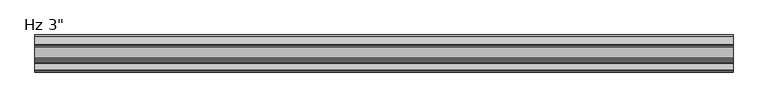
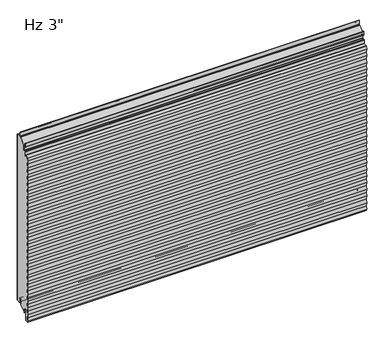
"""IFC4 building model written with IfcOpenShell, lengths in millimetres: plate geometry."""

from ifc_helpers import new_model, si_unit, point, frame, frame_2d, origin, place, context, project, spatial, polyline, circle_curve, ellipse_curve, trimmed, segment, composite_curve, outline, extrude, source, transform, mapped, element, save
from ifc_brep_helpers import plane_surface, cylinder_surface, revolved_surface, extruded_surface, advanced_brep


def plate_72ebc10c(model_context):
    return source(origin(), model_context, "Body", "SolidModel", [
        extrude(outline(composite_curve([segment(trimmed(circle_curve(frame_2d((-21.43125, 19.05)), 4.96875), [point((-16.4625, 19.05))], [point((-26.4, 19.05))], True, "CARTESIAN"), True, "CONTINUOUS"), segment(polyline([(-26.4, 19.05), (-26.4, -3.1323422), (-49.2157227, -23.01875), (-50.8, -23.01875), (-50.8, -13.5080174), (-51.59375, -13.5080174), (-51.3875, -11.9205174)]), True, "CONTINUOUS"), segment(trimmed(circle_curve(frame_2d((-56.35625, -11.9205174)), 4.96875), [point((-51.3875, -11.9205174))], [point((-61.325, -11.9205174))], True, "CARTESIAN"), True, "CONTINUOUS"), segment(polyline([(-61.325, -11.9205174), (-61.325, -50.1038221)]), True, "CONTINUOUS"), segment(trimmed(circle_curve(frame_2d((-62.70625, -50.1038221)), 1.38125), [point((-61.325, -50.1038221))], [point((-62.633961, -51.4831791))], False, "CARTESIAN"), True, "CONTINUOUS"), segment(polyline([(-62.633961, -51.4831791), (-75.8062471, -52.1735094), (-76.3378194, -48.8511825), (-73.8994194, -33.6111825), (-76.3378194, -18.3711825), (-73.8994194, -3.1311825), (-76.3378194, 12.1088175), (-73.8994194, 27.3488175), (-76.3378194, 42.5888175), (-73.8994194, 57.8288175), (-76.3378194, 73.0688175), (-73.8994194, 88.3088175), (-76.3378194, 103.5488175), (-73.8994194, 118.7888175), (-76.3378194, 134.0288175), (-73.8994194, 149.2688175), (-76.3378194, 164.5088175), (-73.8994194, 179.7488175), (-76.3378194, 194.9888175), (-73.8994194, 210.2288175), (-76.3378194, 225.4688175), (-73.8994194, 240.7088175), (-76.3378194, 255.9488175), (-73.8994194, 271.1888175), (-76.3378194, 286.4288175), (-73.8994194, 301.6688175), (-76.3378194, 316.9088175), (-73.8994194, 332.1488175), (-76.3378194, 347.3888175), (-73.8994194, 362.6288175), (-76.3378194, 377.8688175), (-73.8994194, 393.1088175), (-76.3378194, 408.3488175), (-73.8994194, 423.5888175), (-76.3378194, 438.8288175), (-73.8994194, 454.0688175), (-76.3378194, 469.3088175), (-73.8994194, 484.5488175), (-76.3378194, 499.7888175), (-73.8994194, 515.0288175), (-76.3378194, 530.2688175), (-73.8994194, 545.5088175), (-76.3378194, 560.7488175), (-73.8994194, 575.9888175), (-76.3378194, 591.2288175), (-73.8994194, 606.4688175), (-76.3378194, 621.7088175), (-73.8994194, 636.9488175), (-76.3378194, 652.1888175), (-73.8994194, 667.4288175), (-76.3378194, 682.6688175), (-74.3326745, 695.2009726), (-60.1895807, 695.9421807)]), True, "CONTINUOUS"), segment(trimmed(circle_curve(frame_2d((-60.325, 698.5261347)), 2.5875), [point((-60.1895807, 695.9421807))], [point((-57.7375, 698.5261347))], True, "CARTESIAN"), True, "CONTINUOUS"), segment(polyline([(-57.7375, 698.5261347), (-57.7375, 712.6824411)]), True, "CONTINUOUS"), segment(trimmed(circle_curve(frame_2d((-56.35625, 712.6824411)), 1.38125), [point((-57.7375, 712.6824411))], [point((-56.428539, 714.0617981))], False, "CARTESIAN"), True, "CONTINUOUS"), segment(polyline([(-56.428539, 714.0617981), (-50.6645807, 714.3638744)]), True, "CONTINUOUS"), segment(trimmed(circle_curve(frame_2d((-50.8, 716.9478283)), 2.5875), [point((-50.6645807, 714.3638744))], [point((-48.2125, 716.9478283))], True, "CARTESIAN"), True, "CONTINUOUS"), segment(polyline([(-48.2125, 716.9478283), (-48.2125, 739.3892934), (-24.9057308, 760.20625), (-2.38125, 760.20625)]), True, "CONTINUOUS"), segment(trimmed(circle_curve(frame_2d((-2.38125, 758.825)), 1.38125), [point((-2.38125, 760.20625))], [point((-1.0, 758.825))], False, "CARTESIAN"), True, "CONTINUOUS"), segment(polyline([(-1.0, 758.825), (-1.0, 3.175)]), True, "CONTINUOUS"), segment(trimmed(circle_curve(frame_2d((-2.38125, 3.175)), 1.38125), [point((-1.0, 3.175))], [point((-2.38125, 1.79375))], False, "CARTESIAN"), True, "CONTINUOUS"), segment(polyline([(-2.38125, 1.79375), (-15.08125, 1.79375)]), True, "CONTINUOUS"), segment(trimmed(circle_curve(frame_2d((-15.08125, 3.175)), 1.38125), [point((-15.08125, 1.79375))], [point((-16.4625, 3.175))], False, "CARTESIAN"), True, "CONTINUOUS"), segment(polyline([(-16.4625, 3.175), (-16.4625, 19.05)]), True, "CONTINUOUS")], self_intersect=False)), frame((-730.0, 0.0, 0.0), z_axis=(1.0, 0.0, 0.0), x_axis=(0.0, 1.0, 0.0)), (0.0, 0.0, 1.0), 1460.0),
        extrude(outline(composite_curve([segment(polyline([(-25.4, 0.79375), (-26.4, 0.79375), (-26.4, 19.05)]), True, "CONTINUOUS"), segment(trimmed(circle_curve(frame_2d((-21.43125, 19.05)), 4.96875), [point((-26.4, 19.05))], [point((-16.4625, 19.05))], False, "CARTESIAN"), True, "CONTINUOUS"), segment(polyline([(-16.4625, 19.05), (-16.4625, 3.175)]), True, "CONTINUOUS"), segment(trimmed(circle_curve(frame_2d((-15.08125, 3.175)), 1.38125), [point((-16.4625, 3.175))], [point((-15.08125, 1.79375))], True, "CARTESIAN"), True, "CONTINUOUS"), segment(polyline([(-15.08125, 1.79375), (-2.38125, 1.79375)]), True, "CONTINUOUS"), segment(trimmed(circle_curve(frame_2d((-2.38125, 3.175)), 1.38125), [point((-2.38125, 1.79375))], [point((-1.0, 3.175))], True, "CARTESIAN"), True, "CONTINUOUS"), segment(polyline([(-1.0, 3.175), (-1.0, 758.825)]), True, "CONTINUOUS"), segment(trimmed(circle_curve(frame_2d((-2.38125, 758.825)), 1.38125), [point((-1.0, 758.825))], [point((-2.38125, 760.20625))], True, "CARTESIAN"), True, "CONTINUOUS"), segment(polyline([(-2.38125, 760.20625), (-19.446875, 760.20625)]), True, "CONTINUOUS"), segment(trimmed(circle_curve(frame_2d((-19.446875, 762.79375)), 2.5875), [point((-19.446875, 760.20625))], [point((-22.034375, 762.79375))], False, "CARTESIAN"), True, "CONTINUOUS"), segment(polyline([(-22.034375, 762.79375), (-22.034375, 780.25625), (-21.034375, 780.25625), (-21.034375, 762.79375)]), True, "CONTINUOUS"), segment(trimmed(circle_curve(frame_2d((-19.446875, 762.79375)), 1.5875), [point((-21.034375, 762.79375))], [point((-19.446875, 761.20625))], True, "CARTESIAN"), True, "CONTINUOUS"), segment(polyline([(-19.446875, 761.20625), (-2.38125, 761.20625)]), True, "CONTINUOUS"), segment(trimmed(circle_curve(frame_2d((-2.38125, 758.825)), 2.38125), [point((-2.38125, 761.20625))], [point((0.0, 758.825))], False, "CARTESIAN"), True, "CONTINUOUS"), segment(polyline([(0.0, 758.825), (0.0, 3.175)]), True, "CONTINUOUS"), segment(trimmed(circle_curve(frame_2d((-2.38125, 3.175)), 2.38125), [point((0.0, 3.175))], [point((-2.38125, 0.79375))], False, "CARTESIAN"), True, "CONTINUOUS"), segment(polyline([(-2.38125, 0.79375), (-15.08125, 0.79375)]), True, "CONTINUOUS"), segment(trimmed(circle_curve(frame_2d((-15.08125, 3.175)), 2.38125), [point((-15.08125, 0.79375))], [point((-17.4625, 3.175))], False, "CARTESIAN"), True, "CONTINUOUS"), segment(polyline([(-17.4625, 3.175), (-17.4625, 19.05)]), True, "CONTINUOUS"), segment(trimmed(circle_curve(frame_2d((-21.43125, 19.05)), 3.96875), [point((-17.4625, 19.05))], [point((-25.4, 19.05))], True, "CARTESIAN"), True, "CONTINUOUS"), segment(polyline([(-25.4, 19.05), (-25.4, 0.79375)]), True, "CONTINUOUS")], self_intersect=False)), frame((-730.0, 0.0, 0.0), z_axis=(1.0, 0.0, 0.0), x_axis=(0.0, 1.0, 0.0)), (0.0, 0.0, 1.0), 1460.0),
        advanced_brep(
        [(-730.0, -50.8, -23.2314549), (-730.0, -52.3875, -23.2314549), (-730.0, -52.3875, -11.9205174), (-730.0, -60.325, -11.9205174), (-730.0, -60.325, -50.1038221), (-730.0, -62.581625, -52.4818086), (-730.0, -76.7543553, -53.22457), (-730.0, -77.4509395, -48.8709186), (-730.0, -75.0125395, -33.6309186), (-730.0, -77.4509395, -18.3909186), (-730.0, -75.0125395, -3.1509186), (-730.0, -77.4509395, 12.0890814), (-730.0, -75.0125395, 27.3290814), (-730.0, -77.4509395, 42.5690814), (-730.0, -75.0125395, 57.8090814), (-730.0, -77.4509395, 73.0490814), (-730.0, -75.0125395, 88.2890814), (-730.0, -77.4509395, 103.5290814), (-730.0, -75.0125395, 118.7690814), (-730.0, -77.4509395, 134.0090814), (-730.0, -75.0125395, 149.2490814), (-730.0, -77.4509395, 164.4890814), (-730.0, -75.0125395, 179.7290814), (-730.0, -77.4509395, 194.9690814), (-730.0, -75.0125395, 210.2090814), (-730.0, -77.4509395, 225.4490814), (-730.0, -75.0125395, 240.6890814), (-730.0, -77.4509395, 255.9290814), (-730.0, -75.0125395, 271.1690814), (-730.0, -77.4509395, 286.4090814), (-730.0, -75.0125395, 301.6490814), (-730.0, -77.4509395, 316.8890814), (-730.0, -75.0125395, 332.1290814), (-730.0, -77.4509395, 347.3690814), (-730.0, -75.0125395, 362.6090814), (-730.0, -77.4509395, 377.8490814), (-730.0, -75.0125395, 393.0890814), (-730.0, -77.4509395, 408.3290814), (-730.0, -75.0125395, 423.5690814), (-730.0, -77.4509395, 438.8090814), (-730.0, -75.0125395, 454.0490814), (-730.0, -77.4509395, 469.2890814), (-730.0, -75.0125395, 484.5290814), (-730.0, -77.4509395, 499.7690814), (-730.0, -75.0125395, 515.0090814), (-730.0, -77.4509395, 530.2490814), (-730.0, -75.0125395, 545.4890814), (-730.0, -77.4509395, 560.7290814), (-730.0, -75.0125395, 575.9690814), (-730.0, -77.4509395, 591.2090814), (-730.0, -75.0125395, 606.4490814), (-730.0, -77.4509395, 621.6890814), (-730.0, -75.0125395, 636.9290814), (-730.0, -77.4509395, 652.1690814), (-730.0, -75.0125395, 667.4090814), (-730.0, -77.4428368, 682.5984395), (-730.0, -75.274106, 696.1530066), (-730.0, -60.2419167, 696.9408103), (-730.0, -58.7375, 698.5261347), (-730.0, -58.7375, 712.6824411), (-730.0, -56.480875, 715.0604276), (-730.0, -50.7169167, 715.3625039), (-730.0, -49.2125, 716.9478283), (-730.0, -49.2125, 731.8232326), (-730.0, -50.8, 733.4107326), (-730.0, -54.9671875, 733.4107326), (-730.0, -57.3484375, 735.7919826), (-730.0, -57.3484375, 750.2836032), (-730.0, -55.5546875, 750.2836032), (-730.0, -55.5546875, 740.5544826), (-730.0, -56.3484375, 740.5544826), (-730.0, -56.3484375, 735.7919826), (-730.0, -54.9671875, 734.4107326), (-730.0, -50.8, 734.4107326), (-730.0, -48.2125, 731.8232326), (-730.0, -48.2125, 716.9478283), (-730.0, -50.6645807, 714.3638744), (-730.0, -56.428539, 714.0617981), (-730.0, -57.7375, 712.6824411), (-730.0, -57.7375, 698.5261347), (-730.0, -60.1895807, 695.9421807), (-730.0, -74.4143976, 695.1966897), (-730.0, -76.4301177, 682.5984395), (-730.0, -73.9998204, 667.4090814), (-730.0, -76.4382204, 652.1690814), (-730.0, -73.9998204, 636.9290814), (-730.0, -76.4382204, 621.6890814), (-730.0, -73.9998204, 606.4490814), (-730.0, -76.4382204, 591.2090814), (-730.0, -73.9998204, 575.9690814), (-730.0, -76.4382204, 560.7290814), (-730.0, -73.9998204, 545.4890814), (-730.0, -76.4382204, 530.2490814), (-730.0, -73.9998204, 515.0090814), (-730.0, -76.4382204, 499.7690814), (-730.0, -73.9998204, 484.5290814), (-730.0, -76.4382204, 469.2890814), (-730.0, -73.9998204, 454.0490814), (-730.0, -76.4382204, 438.8090814), (-730.0, -73.9998204, 423.5690814), (-730.0, -76.4382204, 408.3290814), (-730.0, -73.9998204, 393.0890814), (-730.0, -76.4382204, 377.8490814), (-730.0, -73.9998204, 362.6090814), (-730.0, -76.4382204, 347.3690814), (-730.0, -73.9998204, 332.1290814), (-730.0, -76.4382204, 316.8890814), (-730.0, -73.9998204, 301.6490814), (-730.0, -76.4382204, 286.4090814), (-730.0, -73.9998204, 271.1690814), (-730.0, -76.4382204, 255.9290814), (-730.0, -73.9998204, 240.6890814), (-730.0, -76.4382204, 225.4490814), (-730.0, -73.9998204, 210.2090814), (-730.0, -76.4382204, 194.9690814), (-730.0, -73.9998204, 179.7290814), (-730.0, -76.4382204, 164.4890814), (-730.0, -73.9998204, 149.2490814), (-730.0, -76.4382204, 134.0090814), (-730.0, -73.9998204, 118.7690814), (-730.0, -76.4382204, 103.5290814), (-730.0, -73.9998204, 88.2890814), (-730.0, -76.4382204, 73.0490814), (-730.0, -73.9998204, 57.8090814), (-730.0, -76.4382204, 42.5690814), (-730.0, -73.9998204, 27.3290814), (-730.0, -76.4382204, 12.0890814), (-730.0, -73.9998204, -3.1509186), (-730.0, -76.4382204, -18.3909186), (-730.0, -73.9998204, -33.6309186), (-730.0, -76.4382204, -48.8709186), (-730.0, -75.9089447, -52.1788915), (-730.0, -62.633961, -51.4831791), (-730.0, -61.325, -50.1038221), (-730.0, -61.325, -11.9205174), (-730.0, -51.3875, -11.9205174), (-730.0, -51.59375, -13.5080174), (-730.0, -50.8, -13.5080174), (730.0, -50.8, -23.2314549), (730.0, -50.8, -13.5080174), (730.0, -51.59375, -13.5080174), (730.0, -51.3875, -11.9205174), (730.0, -61.325, -11.9205174), (730.0, -61.325, -50.1038221), (730.0, -62.633961, -51.4831791), (730.0, -75.9089447, -52.1788915), (730.0, -76.4382204, -48.8709186), (730.0, -73.9998204, -33.6309186), (730.0, -76.4382204, -18.3909186), (730.0, -73.9998204, -3.1509186), (730.0, -76.4382204, 12.0890814), (730.0, -73.9998204, 27.3290814), (730.0, -76.4382204, 42.5690814), (730.0, -73.9998204, 57.8090814), (730.0, -76.4382204, 73.0490814), (730.0, -73.9998204, 88.2890814), (730.0, -76.4382204, 103.5290814), (730.0, -73.9998204, 118.7690814), (730.0, -76.4382204, 134.0090814), (730.0, -73.9998204, 149.2490814), (730.0, -76.4382204, 164.4890814), (730.0, -73.9998204, 179.7290814), (730.0, -76.4382204, 194.9690814), (730.0, -73.9998204, 210.2090814), (730.0, -76.4382204, 225.4490814), (730.0, -73.9998204, 240.6890814), (730.0, -76.4382204, 255.9290814), (730.0, -73.9998204, 271.1690814), (730.0, -76.4382204, 286.4090814), (730.0, -73.9998204, 301.6490814), (730.0, -76.4382204, 316.8890814), (730.0, -73.9998204, 332.1290814), (730.0, -76.4382204, 347.3690814), (730.0, -73.9998204, 362.6090814), (730.0, -76.4382204, 377.8490814), (730.0, -73.9998204, 393.0890814), (730.0, -76.4382204, 408.3290814), (730.0, -73.9998204, 423.5690814), (730.0, -76.4382204, 438.8090814), (730.0, -73.9998204, 454.0490814), (730.0, -76.4382204, 469.2890814), (730.0, -73.9998204, 484.5290814), (730.0, -76.4382204, 499.7690814), (730.0, -73.9998204, 515.0090814), (730.0, -76.4382204, 530.2490814), (730.0, -73.9998204, 545.4890814), (730.0, -76.4382204, 560.7290814), (730.0, -73.9998204, 575.9690814), (730.0, -76.4382204, 591.2090814), (730.0, -73.9998204, 606.4490814), (730.0, -76.4382204, 621.6890814), (730.0, -73.9998204, 636.9290814), (730.0, -76.4382204, 652.1690814), (730.0, -73.9998204, 667.4090814), (730.0, -76.4301177, 682.5984395), (730.0, -74.4143976, 695.1966897), (730.0, -60.1895807, 695.9421807), (730.0, -57.7375, 698.5261347), (730.0, -57.7375, 712.6824411), (730.0, -56.428539, 714.0617981), (730.0, -50.6645807, 714.3638744), (730.0, -48.2125, 716.9478283), (730.0, -48.2125, 731.8232326), (730.0, -50.8, 734.4107326), (730.0, -54.9671875, 734.4107326), (730.0, -56.3484375, 735.7919826), (730.0, -56.3484375, 740.5544826), (730.0, -55.5546875, 740.5544826), (730.0, -55.5546875, 750.2836032), (730.0, -57.3484375, 750.2836032), (730.0, -57.3484375, 735.7919826), (730.0, -54.9671875, 733.4107326), (730.0, -50.8, 733.4107326), (730.0, -49.2125, 731.8232326), (730.0, -49.2125, 716.9478283), (730.0, -50.7169167, 715.3625039), (730.0, -56.480875, 715.0604276), (730.0, -58.7375, 712.6824411), (730.0, -58.7375, 698.5261347), (730.0, -60.2419167, 696.9408103), (730.0, -75.274106, 696.1530066), (730.0, -77.4428368, 682.5984395), (730.0, -75.0125395, 667.4090814), (730.0, -77.4509395, 652.1690814), (730.0, -75.0125395, 636.9290814), (730.0, -77.4509395, 621.6890814), (730.0, -75.0125395, 606.4490814), (730.0, -77.4509395, 591.2090814), (730.0, -75.0125395, 575.9690814), (730.0, -77.4509395, 560.7290814), (730.0, -75.0125395, 545.4890814), (730.0, -77.4509395, 530.2490814), (730.0, -75.0125395, 515.0090814), (730.0, -77.4509395, 499.7690814), (730.0, -75.0125395, 484.5290814), (730.0, -77.4509395, 469.2890814), (730.0, -75.0125395, 454.0490814), (730.0, -77.4509395, 438.8090814), (730.0, -75.0125395, 423.5690814), (730.0, -77.4509395, 408.3290814), (730.0, -75.0125395, 393.0890814), (730.0, -77.4509395, 377.8490814), (730.0, -75.0125395, 362.6090814), (730.0, -77.4509395, 347.3690814), (730.0, -75.0125395, 332.1290814), (730.0, -77.4509395, 316.8890814), (730.0, -75.0125395, 301.6490814), (730.0, -77.4509395, 286.4090814), (730.0, -75.0125395, 271.1690814), (730.0, -77.4509395, 255.9290814), (730.0, -75.0125395, 240.6890814), (730.0, -77.4509395, 225.4490814), (730.0, -75.0125395, 210.2090814), (730.0, -77.4509395, 194.9690814), (730.0, -75.0125395, 179.7290814), (730.0, -77.4509395, 164.4890814), (730.0, -75.0125395, 149.2490814), (730.0, -77.4509395, 134.0090814), (730.0, -75.0125395, 118.7690814), (730.0, -77.4509395, 103.5290814), (730.0, -75.0125395, 88.2890814), (730.0, -77.4509395, 73.0490814), (730.0, -75.0125395, 57.8090814), (730.0, -77.4509395, 42.5690814), (730.0, -75.0125395, 27.3290814), (730.0, -77.4509395, 12.0890814), (730.0, -75.0125395, -3.1509186), (730.0, -77.4509395, -18.3909186), (730.0, -75.0125395, -33.6309186), (730.0, -77.4509395, -48.8709186), (730.0, -76.7543553, -53.22457), (730.0, -62.581625, -52.4818086), (730.0, -60.325, -50.1038221), (730.0, -60.325, -11.9205174), (730.0, -52.3875, -11.9205174), (730.0, -52.3875, -23.2314549)],
        [
            (0, 1, circle_curve(frame((-730.0, -51.59375, -23.2314549), z_axis=(-1.0, 0.0, 0.0), x_axis=(0.0, 0.0, -1.0)), 0.79375)),
            (1, 2),
            (2, 3, circle_curve(frame((-730.0, -56.35625, -11.9205174), z_axis=(1.0, 0.0, 0.0), x_axis=(0.0, 0.0, -1.0)), 3.96875)),
            (3, 4),
            (4, 5, circle_curve(frame((-730.0, -62.70625, -50.1038221), z_axis=(-1.0, 0.0, 0.0), x_axis=(0.0, 0.0, -1.0)), 2.38125)),
            (5, 6),
            (6, 7),
            (7, 8),
            (8, 9),
            (9, 10),
            (10, 11),
            (11, 12),
            (12, 13),
            (13, 14),
            (14, 15),
            (15, 16),
            (16, 17),
            (17, 18),
            (18, 19),
            (19, 20),
            (20, 21),
            (21, 22),
            (22, 23),
            (23, 24),
            (24, 25),
            (25, 26),
            (26, 27),
            (27, 28),
            (28, 29),
            (29, 30),
            (30, 31),
            (31, 32),
            (32, 33),
            (33, 34),
            (34, 35),
            (35, 36),
            (36, 37),
            (37, 38),
            (38, 39),
            (39, 40),
            (40, 41),
            (41, 42),
            (42, 43),
            (43, 44),
            (44, 45),
            (45, 46),
            (46, 47),
            (47, 48),
            (48, 49),
            (49, 50),
            (50, 51),
            (51, 52),
            (52, 53),
            (53, 54),
            (54, 55),
            (55, 56),
            (56, 57),
            (57, 58, circle_curve(frame((-730.0, -60.325, 698.5261347), z_axis=(1.0, 0.0, 0.0), x_axis=(0.0, 0.0, -1.0)), 1.5875)),
            (58, 59),
            (59, 60, circle_curve(frame((-730.0, -56.35625, 712.6824411), z_axis=(-1.0, 0.0, 0.0), x_axis=(0.0, 0.0, -1.0)), 2.38125)),
            (60, 61),
            (61, 62, circle_curve(frame((-730.0, -50.8, 716.9478283), z_axis=(1.0, 0.0, 0.0), x_axis=(0.0, 0.0, -1.0)), 1.5875)),
            (62, 63),
            (63, 64, circle_curve(frame((-730.0, -50.8, 731.8232326), z_axis=(1.0, 0.0, 0.0), x_axis=(0.0, 0.0, -1.0)), 1.5875)),
            (64, 65),
            (65, 66, circle_curve(frame((-730.0, -54.9671875, 735.7919826), z_axis=(-1.0, 0.0, 0.0), x_axis=(0.0, 0.0, -1.0)), 2.38125)),
            (66, 67),
            (67, 68, ellipse_curve(frame((-730.0, -56.4515625, 750.2836032), z_axis=(-1.0, 0.0, 0.0), x_axis=(0.0, 1.0, 0.0)), 0.896875, 0.7852275)),
            (68, 69),
            (69, 70),
            (70, 71),
            (71, 72, circle_curve(frame((-730.0, -54.9671875, 735.7919826), z_axis=(1.0, 0.0, 0.0), x_axis=(0.0, 0.0, -1.0)), 1.38125)),
            (72, 73),
            (73, 74, circle_curve(frame((-730.0, -50.8, 731.8232326), z_axis=(-1.0, 0.0, 0.0), x_axis=(0.0, 0.0, -1.0)), 2.5875)),
            (74, 75),
            (75, 76, circle_curve(frame((-730.0, -50.8, 716.9478283), z_axis=(-1.0, 0.0, 0.0), x_axis=(0.0, 0.0, -1.0)), 2.5875)),
            (76, 77),
            (77, 78, circle_curve(frame((-730.0, -56.35625, 712.6824411), z_axis=(1.0, 0.0, 0.0), x_axis=(0.0, 0.0, -1.0)), 1.38125)),
            (78, 79),
            (79, 80, circle_curve(frame((-730.0, -60.325, 698.5261347), z_axis=(-1.0, 0.0, 0.0), x_axis=(0.0, 0.0, -1.0)), 2.5875)),
            (80, 81),
            (81, 82),
            (82, 83),
            (83, 84),
            (84, 85),
            (85, 86),
            (86, 87),
            (87, 88),
            (88, 89),
            (89, 90),
            (90, 91),
            (91, 92),
            (92, 93),
            (93, 94),
            (94, 95),
            (95, 96),
            (96, 97),
            (97, 98),
            (98, 99),
            (99, 100),
            (100, 101),
            (101, 102),
            (102, 103),
            (103, 104),
            (104, 105),
            (105, 106),
            (106, 107),
            (107, 108),
            (108, 109),
            (109, 110),
            (110, 111),
            (111, 112),
            (112, 113),
            (113, 114),
            (114, 115),
            (115, 116),
            (116, 117),
            (117, 118),
            (118, 119),
            (119, 120),
            (120, 121),
            (121, 122),
            (122, 123),
            (123, 124),
            (124, 125),
            (125, 126),
            (126, 127),
            (127, 128),
            (128, 129),
            (129, 130),
            (130, 131),
            (131, 132),
            (132, 133, circle_curve(frame((-730.0, -62.70625, -50.1038221), z_axis=(1.0, 0.0, 0.0), x_axis=(0.0, 0.0, -1.0)), 1.38125)),
            (133, 134),
            (134, 135, circle_curve(frame((-730.0, -56.35625, -11.9205174), z_axis=(-1.0, 0.0, 0.0), x_axis=(0.0, 0.0, -1.0)), 4.96875)),
            (135, 136),
            (136, 137),
            (137, 0),
            (138, 139),
            (139, 140),
            (140, 141),
            (141, 142, circle_curve(frame((730.0, -56.35625, -11.9205174), z_axis=(1.0, 0.0, 0.0), x_axis=(0.0, 0.0, -1.0)), 4.96875)),
            (142, 143),
            (143, 144, circle_curve(frame((730.0, -62.70625, -50.1038221), z_axis=(-1.0, 0.0, 0.0), x_axis=(0.0, 0.0, -1.0)), 1.38125)),
            (144, 145),
            (145, 146),
            (146, 147),
            (147, 148),
            (148, 149),
            (149, 150),
            (150, 151),
            (151, 152),
            (152, 153),
            (153, 154),
            (154, 155),
            (155, 156),
            (156, 157),
            (157, 158),
            (158, 159),
            (159, 160),
            (160, 161),
            (161, 162),
            (162, 163),
            (163, 164),
            (164, 165),
            (165, 166),
            (166, 167),
            (167, 168),
            (168, 169),
            (169, 170),
            (170, 171),
            (171, 172),
            (172, 173),
            (173, 174),
            (174, 175),
            (175, 176),
            (176, 177),
            (177, 178),
            (178, 179),
            (179, 180),
            (180, 181),
            (181, 182),
            (182, 183),
            (183, 184),
            (184, 185),
            (185, 186),
            (186, 187),
            (187, 188),
            (188, 189),
            (189, 190),
            (190, 191),
            (191, 192),
            (192, 193),
            (193, 194),
            (194, 195),
            (195, 196),
            (196, 197, circle_curve(frame((730.0, -60.325, 698.5261347), z_axis=(1.0, 0.0, 0.0), x_axis=(0.0, 0.0, -1.0)), 2.5875)),
            (197, 198),
            (198, 199, circle_curve(frame((730.0, -56.35625, 712.6824411), z_axis=(-1.0, 0.0, 0.0), x_axis=(0.0, 0.0, -1.0)), 1.38125)),
            (199, 200),
            (200, 201, circle_curve(frame((730.0, -50.8, 716.9478283), z_axis=(1.0, 0.0, 0.0), x_axis=(0.0, 0.0, -1.0)), 2.5875)),
            (201, 202),
            (202, 203, circle_curve(frame((730.0, -50.8, 731.8232326), z_axis=(1.0, 0.0, 0.0), x_axis=(0.0, 0.0, -1.0)), 2.5875)),
            (203, 204),
            (204, 205, circle_curve(frame((730.0, -54.9671875, 735.7919826), z_axis=(-1.0, 0.0, 0.0), x_axis=(0.0, 0.0, -1.0)), 1.38125)),
            (205, 206),
            (206, 207),
            (207, 208),
            (208, 209, ellipse_curve(frame((730.0, -56.4515625, 750.2836032), z_axis=(1.0, 0.0, 0.0), x_axis=(0.0, 1.0, 0.0)), 0.896875, 0.7852275)),
            (209, 210),
            (210, 211, circle_curve(frame((730.0, -54.9671875, 735.7919826), z_axis=(1.0, 0.0, 0.0), x_axis=(0.0, 0.0, -1.0)), 2.38125)),
            (211, 212),
            (212, 213, circle_curve(frame((730.0, -50.8, 731.8232326), z_axis=(-1.0, 0.0, 0.0), x_axis=(0.0, 0.0, -1.0)), 1.5875)),
            (213, 214),
            (214, 215, circle_curve(frame((730.0, -50.8, 716.9478283), z_axis=(-1.0, 0.0, 0.0), x_axis=(0.0, 0.0, -1.0)), 1.5875)),
            (215, 216),
            (216, 217, circle_curve(frame((730.0, -56.35625, 712.6824411), z_axis=(1.0, 0.0, 0.0), x_axis=(0.0, 0.0, -1.0)), 2.38125)),
            (217, 218),
            (218, 219, circle_curve(frame((730.0, -60.325, 698.5261347), z_axis=(-1.0, 0.0, 0.0), x_axis=(0.0, 0.0, -1.0)), 1.5875)),
            (219, 220),
            (220, 221),
            (221, 222),
            (222, 223),
            (223, 224),
            (224, 225),
            (225, 226),
            (226, 227),
            (227, 228),
            (228, 229),
            (229, 230),
            (230, 231),
            (231, 232),
            (232, 233),
            (233, 234),
            (234, 235),
            (235, 236),
            (236, 237),
            (237, 238),
            (238, 239),
            (239, 240),
            (240, 241),
            (241, 242),
            (242, 243),
            (243, 244),
            (244, 245),
            (245, 246),
            (246, 247),
            (247, 248),
            (248, 249),
            (249, 250),
            (250, 251),
            (251, 252),
            (252, 253),
            (253, 254),
            (254, 255),
            (255, 256),
            (256, 257),
            (257, 258),
            (258, 259),
            (259, 260),
            (260, 261),
            (261, 262),
            (262, 263),
            (263, 264),
            (264, 265),
            (265, 266),
            (266, 267),
            (267, 268),
            (268, 269),
            (269, 270),
            (270, 271),
            (271, 272, circle_curve(frame((730.0, -62.70625, -50.1038221), z_axis=(1.0, 0.0, 0.0), x_axis=(0.0, 0.0, -1.0)), 2.38125)),
            (272, 273),
            (273, 274, circle_curve(frame((730.0, -56.35625, -11.9205174), z_axis=(-1.0, 0.0, 0.0), x_axis=(0.0, 0.0, -1.0)), 3.96875)),
            (274, 275),
            (275, 138, circle_curve(frame((730.0, -51.59375, -23.2314549), z_axis=(1.0, 0.0, 0.0), x_axis=(0.0, 0.0, -1.0)), 0.79375)),
            (118, 158),
            (157, 119),
            (156, 120),
            (155, 121),
            (131, 145),
            (144, 132),
            (143, 133),
            (142, 134),
            (141, 135),
            (136, 140),
            (139, 137),
            (69, 207),
            (206, 70),
            (68, 208),
            (67, 209),
            (56, 220),
            (219, 57),
            (80, 196),
            (195, 81),
            (54, 222),
            (221, 55),
            (82, 194),
            (193, 83),
            (192, 84),
            (191, 85),
            (21, 255),
            (254, 22),
            (253, 23),
            (252, 24),
            (251, 25),
            (250, 26),
            (249, 27),
            (102, 174),
            (173, 103),
            (172, 104),
            (171, 105),
            (170, 106),
            (169, 107),
            (168, 108),
            (167, 109),
            (166, 110),
            (248, 28),
            (247, 29),
            (246, 30),
            (52, 224),
            (223, 53),
            (165, 111),
            (164, 112),
            (163, 113),
            (162, 114),
            (161, 115),
            (160, 116),
            (159, 117),
            (19, 257),
            (256, 20),
            (51, 225),
            (50, 226),
            (190, 86),
            (48, 228),
            (227, 49),
            (46, 230),
            (229, 47),
            (44, 232),
            (231, 45),
            (93, 183),
            (182, 94),
            (43, 233),
            (91, 185),
            (184, 92),
            (89, 187),
            (186, 90),
            (87, 189),
            (188, 88),
            (42, 234),
            (40, 236),
            (235, 41),
            (38, 238),
            (237, 39),
            (36, 240),
            (239, 37),
            (101, 175),
            (35, 241),
            (99, 177),
            (176, 100),
            (97, 179),
            (178, 98),
            (95, 181),
            (180, 96),
            (34, 242),
            (32, 244),
            (243, 33),
            (245, 31),
            (18, 258),
            (16, 260),
            (259, 17),
            (14, 262),
            (261, 15),
            (12, 264),
            (263, 13),
            (10, 266),
            (265, 11),
            (8, 268),
            (267, 9),
            (6, 270),
            (269, 7),
            (129, 147),
            (146, 130),
            (127, 149),
            (148, 128),
            (125, 151),
            (150, 126),
            (123, 153),
            (152, 124),
            (154, 122),
            (79, 197),
            (77, 199),
            (198, 78),
            (75, 201),
            (200, 76),
            (71, 205),
            (204, 72),
            (73, 203),
            (202, 74),
            (66, 210),
            (64, 212),
            (211, 65),
            (62, 214),
            (213, 63),
            (60, 216),
            (215, 61),
            (58, 218),
            (217, 59),
            (5, 271),
            (3, 273),
            (272, 4),
            (1, 275),
            (274, 2),
            (138, 0),
        ],
        [
            plane_surface(frame((-730.0, -76.2, 381.0), z_axis=(-1.0, 0.0, 0.0), x_axis=(0.0, -1.0, 0.0))),
            plane_surface(frame((730.0, -76.2, 381.0), z_axis=(1.0, 0.0, 0.0), x_axis=(0.0, -1.0, 0.0))),
            plane_surface(frame((-730.0, -73.9998204, 118.7690814), z_axis=(0.0, 0.9874406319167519, 0.1579905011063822), x_axis=(1.0, 0.0, 0.0))),
            plane_surface(frame((-730.0, -76.4382204, 103.5290814), z_axis=(0.0, 0.9874406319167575, -0.15799050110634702), x_axis=(1.0, 0.0, 0.0))),
            plane_surface(frame((-730.0, -73.9998204, 88.2890814), z_axis=(0.0, 0.987440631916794, 0.1579905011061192), x_axis=(1.0, 0.0, 0.0))),
            plane_surface(frame((-730.0, -62.633961, -51.4831791), z_axis=(0.0, -0.05233595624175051, 0.9986295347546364), x_axis=(1.0, 0.0, 0.0))),
            revolved_surface(polyline([(730.0, -62.70625, -51.485072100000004), (-730.0, -62.70625, -51.485072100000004)]), (-730.0, -62.70625, -50.1038221), (1.0, 0.0, 0.0)),
            plane_surface(frame((-730.0, -61.325, -11.9205174), z_axis=(0.0, -1.0, 0.0), x_axis=(1.0, 0.0, 0.0))),
            cylinder_surface(frame((-730.0, -56.35625, -11.9205174), z_axis=(-1.0, 0.0, 0.0), x_axis=(0.0, 0.0, -1.0)), 4.96875),
            plane_surface(frame((-730.0, -50.8, -13.5080174), z_axis=(0.0, 0.0, 1.0), x_axis=(1.0, 0.0, 0.0))),
            plane_surface(frame((-730.0, -51.59375, -13.5080174), z_axis=(0.0, 0.9916655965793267, -0.12883844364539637), x_axis=(1.0, 0.0, 0.0))),
            plane_surface(frame((-730.0, -56.3484375, 740.5544826), z_axis=(0.0, 0.0, -1.0), x_axis=(1.0, 0.0, 0.0))),
            plane_surface(frame((-730.0, -55.5546875, 740.5544826), z_axis=(0.0, 1.0, 0.0), x_axis=(1.0, 0.0, 0.0))),
            extruded_surface(trimmed(ellipse_curve(frame((-730.0, -56.4515625, 750.2836032), z_axis=(1.0, 0.0, 0.0), x_axis=(0.0, 1.0, 0.0)), 0.896875, 0.7852275), [point((-730.0, -55.5546875, 750.2836032))], [point((-730.0, -57.3484375, 750.2836032))], True, "CARTESIAN"), (1460.0, 0.0, 0.0), 1460.0),
            plane_surface(frame((-730.0, -60.2419167, 696.9408103), z_axis=(0.0, -0.052335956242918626, 0.9986295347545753), x_axis=(1.0, 0.0, 0.0))),
            plane_surface(frame((-730.0, -74.4143976, 695.1966897), z_axis=(0.0, 0.05233595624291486, -0.9986295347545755), x_axis=(1.0, 0.0, 0.0))),
            plane_surface(frame((-730.0, -77.4428368, 682.5984395), z_axis=(0.0, -0.9874406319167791, -0.15799050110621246), x_axis=(1.0, 0.0, 0.0))),
            plane_surface(frame((-730.0, -73.9998204, 667.4090814), z_axis=(0.0, 0.9874406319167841, 0.15799050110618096), x_axis=(1.0, 0.0, 0.0))),
            plane_surface(frame((-730.0, -76.4382204, 652.1690814), z_axis=(0.0, 0.9874406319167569, -0.15799050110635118), x_axis=(1.0, 0.0, 0.0))),
            plane_surface(frame((-730.0, -73.9998204, 636.9290814), z_axis=(0.0, 0.987440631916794, 0.15799050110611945), x_axis=(1.0, 0.0, 0.0))),
            plane_surface(frame((-730.0, -75.0125395, 179.7290814), z_axis=(0.0, -0.9874406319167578, 0.15799050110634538), x_axis=(1.0, 0.0, 0.0))),
            plane_surface(frame((-730.0, -77.4509395, 194.9690814), z_axis=(0.0, -0.9874406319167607, -0.15799050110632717), x_axis=(1.0, 0.0, 0.0))),
            plane_surface(frame((-730.0, -75.0125395, 210.2090814), z_axis=(0.0, -0.9874406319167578, 0.15799050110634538), x_axis=(1.0, 0.0, 0.0))),
            plane_surface(frame((-730.0, -77.4509395, 225.4490814), z_axis=(0.0, -0.9874406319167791, -0.15799050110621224), x_axis=(1.0, 0.0, 0.0))),
            plane_surface(frame((-730.0, -75.0125395, 240.6890814), z_axis=(0.0, -0.9874406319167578, 0.15799050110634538), x_axis=(1.0, 0.0, 0.0))),
            plane_surface(frame((-730.0, -77.4509395, 255.9290814), z_axis=(0.0, -0.9874406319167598, -0.15799050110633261), x_axis=(1.0, 0.0, 0.0))),
            plane_surface(frame((-730.0, -73.9998204, 362.6090814), z_axis=(0.0, 0.9874406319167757, 0.15799050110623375), x_axis=(1.0, 0.0, 0.0))),
            plane_surface(frame((-730.0, -76.4382204, 347.3690814), z_axis=(0.0, 0.9874406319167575, -0.15799050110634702), x_axis=(1.0, 0.0, 0.0))),
            plane_surface(frame((-730.0, -73.9998204, 332.1290814), z_axis=(0.0, 0.987440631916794, 0.1579905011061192), x_axis=(1.0, 0.0, 0.0))),
            plane_surface(frame((-730.0, -76.4382204, 316.8890814), z_axis=(0.0, 0.987440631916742, -0.15799050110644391), x_axis=(1.0, 0.0, 0.0))),
            plane_surface(frame((-730.0, -73.9998204, 301.6490814), z_axis=(0.0, 0.9874406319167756, 0.15799050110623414), x_axis=(1.0, 0.0, 0.0))),
            plane_surface(frame((-730.0, -76.4382204, 286.4090814), z_axis=(0.0, 0.9874406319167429, -0.15799050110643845), x_axis=(1.0, 0.0, 0.0))),
            plane_surface(frame((-730.0, -73.9998204, 271.1690814), z_axis=(0.0, 0.9874406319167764, 0.15799050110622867), x_axis=(1.0, 0.0, 0.0))),
            plane_surface(frame((-730.0, -76.4382204, 255.9290814), z_axis=(0.0, 0.9874406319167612, -0.1579905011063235), x_axis=(1.0, 0.0, 0.0))),
            plane_surface(frame((-730.0, -75.0125395, 271.1690814), z_axis=(0.0, -0.9874406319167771, 0.157990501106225), x_axis=(1.0, 0.0, 0.0))),
            plane_surface(frame((-730.0, -77.4509395, 286.4090814), z_axis=(0.0, -0.9874406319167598, -0.15799050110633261), x_axis=(1.0, 0.0, 0.0))),
            plane_surface(frame((-730.0, -75.0125395, 301.6490814), z_axis=(0.0, -0.9874406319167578, 0.15799050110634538), x_axis=(1.0, 0.0, 0.0))),
            plane_surface(frame((-730.0, -77.4509395, 652.1690814), z_axis=(0.0, -0.9874406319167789, -0.15799050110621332), x_axis=(1.0, 0.0, 0.0))),
            plane_surface(frame((-730.0, -75.0125395, 667.4090814), z_axis=(0.0, -0.9874406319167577, 0.15799050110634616), x_axis=(1.0, 0.0, 0.0))),
            plane_surface(frame((-730.0, -73.9998204, 240.6890814), z_axis=(0.0, 0.9874406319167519, 0.1579905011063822), x_axis=(1.0, 0.0, 0.0))),
            plane_surface(frame((-730.0, -76.4382204, 225.4490814), z_axis=(0.0, 0.9874406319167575, -0.15799050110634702), x_axis=(1.0, 0.0, 0.0))),
            plane_surface(frame((-730.0, -73.9998204, 210.2090814), z_axis=(0.0, 0.987440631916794, 0.1579905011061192), x_axis=(1.0, 0.0, 0.0))),
            plane_surface(frame((-730.0, -76.4382204, 194.9690814), z_axis=(0.0, 0.987440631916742, -0.15799050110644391), x_axis=(1.0, 0.0, 0.0))),
            plane_surface(frame((-730.0, -73.9998204, 179.7290814), z_axis=(0.0, 0.9874406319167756, 0.15799050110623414), x_axis=(1.0, 0.0, 0.0))),
            plane_surface(frame((-730.0, -76.4382204, 164.4890814), z_axis=(0.0, 0.9874406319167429, -0.15799050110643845), x_axis=(1.0, 0.0, 0.0))),
            plane_surface(frame((-730.0, -73.9998204, 149.2490814), z_axis=(0.0, 0.9874406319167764, 0.15799050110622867), x_axis=(1.0, 0.0, 0.0))),
            plane_surface(frame((-730.0, -76.4382204, 134.0090814), z_axis=(0.0, 0.9874406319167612, -0.1579905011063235), x_axis=(1.0, 0.0, 0.0))),
            plane_surface(frame((-730.0, -75.0125395, 149.2490814), z_axis=(0.0, -0.9874406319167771, 0.157990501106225), x_axis=(1.0, 0.0, 0.0))),
            plane_surface(frame((-730.0, -77.4509395, 164.4890814), z_axis=(0.0, -0.9874406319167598, -0.15799050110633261), x_axis=(1.0, 0.0, 0.0))),
            plane_surface(frame((-730.0, -75.274106, 696.1530066), z_axis=(0.0, -0.9874406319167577, 0.15799050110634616), x_axis=(1.0, 0.0, 0.0))),
            plane_surface(frame((-730.0, -75.0125395, 636.9290814), z_axis=(0.0, -0.9874406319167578, 0.15799050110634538), x_axis=(1.0, 0.0, 0.0))),
            plane_surface(frame((-730.0, -77.4509395, 621.6890814), z_axis=(0.0, -0.9874406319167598, -0.15799050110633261), x_axis=(1.0, 0.0, 0.0))),
            plane_surface(frame((-730.0, -76.4382204, 621.6890814), z_axis=(0.0, 0.9874406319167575, -0.15799050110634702), x_axis=(1.0, 0.0, 0.0))),
            plane_surface(frame((-730.0, -76.4301177, 682.5984395), z_axis=(0.0, 0.9874406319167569, -0.15799050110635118), x_axis=(1.0, 0.0, 0.0))),
            plane_surface(frame((-730.0, -77.4509395, 591.2090814), z_axis=(0.0, -0.9874406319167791, -0.15799050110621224), x_axis=(1.0, 0.0, 0.0))),
            plane_surface(frame((-730.0, -77.4509395, 560.7290814), z_axis=(0.0, -0.9874406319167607, -0.15799050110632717), x_axis=(1.0, 0.0, 0.0))),
            plane_surface(frame((-730.0, -75.0125395, 575.9690814), z_axis=(0.0, -0.9874406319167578, 0.15799050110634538), x_axis=(1.0, 0.0, 0.0))),
            plane_surface(frame((-730.0, -75.0125395, 606.4490814), z_axis=(0.0, -0.9874406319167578, 0.15799050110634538), x_axis=(1.0, 0.0, 0.0))),
            plane_surface(frame((-730.0, -77.4509395, 530.2490814), z_axis=(0.0, -0.9874406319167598, -0.15799050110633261), x_axis=(1.0, 0.0, 0.0))),
            plane_surface(frame((-730.0, -76.4382204, 499.7690814), z_axis=(0.0, 0.9874406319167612, -0.1579905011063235), x_axis=(1.0, 0.0, 0.0))),
            plane_surface(frame((-730.0, -75.0125395, 515.0090814), z_axis=(0.0, -0.9874406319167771, 0.157990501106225), x_axis=(1.0, 0.0, 0.0))),
            plane_surface(frame((-730.0, -75.0125395, 545.4890814), z_axis=(0.0, -0.9874406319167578, 0.15799050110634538), x_axis=(1.0, 0.0, 0.0))),
            plane_surface(frame((-730.0, -76.4382204, 530.2490814), z_axis=(0.0, 0.9874406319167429, -0.15799050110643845), x_axis=(1.0, 0.0, 0.0))),
            plane_surface(frame((-730.0, -76.4382204, 560.7290814), z_axis=(0.0, 0.987440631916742, -0.15799050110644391), x_axis=(1.0, 0.0, 0.0))),
            plane_surface(frame((-730.0, -73.9998204, 545.4890814), z_axis=(0.0, 0.9874406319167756, 0.15799050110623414), x_axis=(1.0, 0.0, 0.0))),
            plane_surface(frame((-730.0, -73.9998204, 515.0090814), z_axis=(0.0, 0.9874406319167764, 0.15799050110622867), x_axis=(1.0, 0.0, 0.0))),
            plane_surface(frame((-730.0, -76.4382204, 591.2090814), z_axis=(0.0, 0.9874406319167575, -0.15799050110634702), x_axis=(1.0, 0.0, 0.0))),
            plane_surface(frame((-730.0, -77.4509395, 499.7690814), z_axis=(0.0, -0.9874406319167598, -0.15799050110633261), x_axis=(1.0, 0.0, 0.0))),
            plane_surface(frame((-730.0, -73.9998204, 606.4490814), z_axis=(0.0, 0.9874406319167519, 0.1579905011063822), x_axis=(1.0, 0.0, 0.0))),
            plane_surface(frame((-730.0, -73.9998204, 575.9690814), z_axis=(0.0, 0.987440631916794, 0.1579905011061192), x_axis=(1.0, 0.0, 0.0))),
            plane_surface(frame((-730.0, -77.4509395, 469.2890814), z_axis=(0.0, -0.9874406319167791, -0.15799050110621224), x_axis=(1.0, 0.0, 0.0))),
            plane_surface(frame((-730.0, -77.4509395, 438.8090814), z_axis=(0.0, -0.9874406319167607, -0.15799050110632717), x_axis=(1.0, 0.0, 0.0))),
            plane_surface(frame((-730.0, -75.0125395, 454.0490814), z_axis=(0.0, -0.9874406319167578, 0.15799050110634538), x_axis=(1.0, 0.0, 0.0))),
            plane_surface(frame((-730.0, -75.0125395, 484.5290814), z_axis=(0.0, -0.9874406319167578, 0.15799050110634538), x_axis=(1.0, 0.0, 0.0))),
            plane_surface(frame((-730.0, -77.4509395, 408.3290814), z_axis=(0.0, -0.9874406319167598, -0.15799050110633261), x_axis=(1.0, 0.0, 0.0))),
            plane_surface(frame((-730.0, -76.4382204, 377.8490814), z_axis=(0.0, 0.9874406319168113, -0.1579905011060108), x_axis=(1.0, 0.0, 0.0))),
            plane_surface(frame((-730.0, -75.0125395, 393.0890814), z_axis=(0.0, -0.9874406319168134, 0.15799050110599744), x_axis=(1.0, 0.0, 0.0))),
            plane_surface(frame((-730.0, -75.0125395, 423.5690814), z_axis=(0.0, -0.9874406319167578, 0.15799050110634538), x_axis=(1.0, 0.0, 0.0))),
            plane_surface(frame((-730.0, -76.4382204, 408.3290814), z_axis=(0.0, 0.9874406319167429, -0.15799050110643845), x_axis=(1.0, 0.0, 0.0))),
            plane_surface(frame((-730.0, -76.4382204, 438.8090814), z_axis=(0.0, 0.987440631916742, -0.15799050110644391), x_axis=(1.0, 0.0, 0.0))),
            plane_surface(frame((-730.0, -73.9998204, 423.5690814), z_axis=(0.0, 0.9874406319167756, 0.15799050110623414), x_axis=(1.0, 0.0, 0.0))),
            plane_surface(frame((-730.0, -73.9998204, 393.0890814), z_axis=(0.0, 0.9874406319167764, 0.15799050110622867), x_axis=(1.0, 0.0, 0.0))),
            plane_surface(frame((-730.0, -76.4382204, 469.2890814), z_axis=(0.0, 0.9874406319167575, -0.15799050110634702), x_axis=(1.0, 0.0, 0.0))),
            plane_surface(frame((-730.0, -77.4509395, 377.8490814), z_axis=(0.0, -0.9874406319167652, -0.15799050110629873), x_axis=(1.0, 0.0, 0.0))),
            plane_surface(frame((-730.0, -73.9998204, 484.5290814), z_axis=(0.0, 0.9874406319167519, 0.1579905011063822), x_axis=(1.0, 0.0, 0.0))),
            plane_surface(frame((-730.0, -73.9998204, 454.0490814), z_axis=(0.0, 0.987440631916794, 0.1579905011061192), x_axis=(1.0, 0.0, 0.0))),
            plane_surface(frame((-730.0, -77.4509395, 347.3690814), z_axis=(0.0, -0.9874406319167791, -0.15799050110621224), x_axis=(1.0, 0.0, 0.0))),
            plane_surface(frame((-730.0, -77.4509395, 316.8890814), z_axis=(0.0, -0.9874406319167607, -0.15799050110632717), x_axis=(1.0, 0.0, 0.0))),
            plane_surface(frame((-730.0, -75.0125395, 332.1290814), z_axis=(0.0, -0.9874406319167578, 0.15799050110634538), x_axis=(1.0, 0.0, 0.0))),
            plane_surface(frame((-730.0, -75.0125395, 362.6090814), z_axis=(0.0, -0.9874406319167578, 0.15799050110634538), x_axis=(1.0, 0.0, 0.0))),
            plane_surface(frame((-730.0, -77.4509395, 134.0090814), z_axis=(0.0, -0.9874406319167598, -0.15799050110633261), x_axis=(1.0, 0.0, 0.0))),
            plane_surface(frame((-730.0, -77.4509395, 103.5290814), z_axis=(0.0, -0.9874406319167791, -0.15799050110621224), x_axis=(1.0, 0.0, 0.0))),
            plane_surface(frame((-730.0, -75.0125395, 118.7690814), z_axis=(0.0, -0.9874406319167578, 0.15799050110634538), x_axis=(1.0, 0.0, 0.0))),
            plane_surface(frame((-730.0, -77.4509395, 73.0490814), z_axis=(0.0, -0.9874406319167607, -0.15799050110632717), x_axis=(1.0, 0.0, 0.0))),
            plane_surface(frame((-730.0, -77.4509395, 42.5690814), z_axis=(0.0, -0.9874406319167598, -0.15799050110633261), x_axis=(1.0, 0.0, 0.0))),
            plane_surface(frame((-730.0, -75.0125395, 57.8090814), z_axis=(0.0, -0.9874406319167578, 0.15799050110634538), x_axis=(1.0, 0.0, 0.0))),
            plane_surface(frame((-730.0, -75.0125395, 88.2890814), z_axis=(0.0, -0.9874406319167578, 0.15799050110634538), x_axis=(1.0, 0.0, 0.0))),
            plane_surface(frame((-730.0, -77.4509395, 12.0890814), z_axis=(0.0, -0.9874406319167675, -0.15799050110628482), x_axis=(1.0, 0.0, 0.0))),
            plane_surface(frame((-730.0, -75.0125395, 27.3290814), z_axis=(0.0, -0.9874406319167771, 0.157990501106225), x_axis=(1.0, 0.0, 0.0))),
            plane_surface(frame((-730.0, -77.4509395, -18.3909186), z_axis=(0.0, -0.9874406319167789, -0.15799050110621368), x_axis=(1.0, 0.0, 0.0))),
            plane_surface(frame((-730.0, -77.4509395, -48.8709186), z_axis=(0.0, -0.9874406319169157, -0.15799050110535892), x_axis=(1.0, 0.0, 0.0))),
            plane_surface(frame((-730.0, -75.0125395, -33.6309186), z_axis=(0.0, -0.9874406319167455, 0.15799050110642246), x_axis=(1.0, 0.0, 0.0))),
            plane_surface(frame((-730.0, -75.0125395, -3.1509186), z_axis=(0.0, -0.9874406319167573, 0.1579905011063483), x_axis=(1.0, 0.0, 0.0))),
            plane_surface(frame((-730.0, -76.4382204, -48.8709186), z_axis=(0.0, 0.9874406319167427, -0.1579905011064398), x_axis=(1.0, 0.0, 0.0))),
            plane_surface(frame((-730.0, -76.4382204, -18.3909186), z_axis=(0.0, 0.9874406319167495, -0.15799050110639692), x_axis=(1.0, 0.0, 0.0))),
            plane_surface(frame((-730.0, -73.9998204, -33.6309186), z_axis=(0.0, 0.9874406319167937, 0.1579905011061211), x_axis=(1.0, 0.0, 0.0))),
            plane_surface(frame((-730.0, -75.9089447, -52.1788915), z_axis=(0.0, 0.9874406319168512, 0.15799050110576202), x_axis=(1.0, 0.0, 0.0))),
            plane_surface(frame((-730.0, -76.4382204, 12.0890814), z_axis=(0.0, 0.9874406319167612, -0.1579905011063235), x_axis=(1.0, 0.0, 0.0))),
            plane_surface(frame((-730.0, -73.9998204, -3.1509186), z_axis=(0.0, 0.9874406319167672, 0.15799050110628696), x_axis=(1.0, 0.0, 0.0))),
            plane_surface(frame((-730.0, -76.4382204, 42.5690814), z_axis=(0.0, 0.9874406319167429, -0.15799050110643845), x_axis=(1.0, 0.0, 0.0))),
            plane_surface(frame((-730.0, -76.4382204, 73.0490814), z_axis=(0.0, 0.987440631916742, -0.15799050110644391), x_axis=(1.0, 0.0, 0.0))),
            plane_surface(frame((-730.0, -73.9998204, 57.8090814), z_axis=(0.0, 0.9874406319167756, 0.15799050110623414), x_axis=(1.0, 0.0, 0.0))),
            plane_surface(frame((-730.0, -73.9998204, 27.3290814), z_axis=(0.0, 0.9874406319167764, 0.15799050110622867), x_axis=(1.0, 0.0, 0.0))),
            cylinder_surface(frame((-730.0, -60.325, 698.5261347), z_axis=(-1.0, 0.0, 0.0), x_axis=(0.0, 0.0, -1.0)), 2.5875),
            revolved_surface(polyline([(730.0, -56.35625, 711.3011911), (-730.0, -56.35625, 711.3011911)]), (-730.0, -56.35625, 712.6824411), (1.0, 0.0, 0.0)),
            cylinder_surface(frame((-730.0, -50.8, 716.9478283), z_axis=(-1.0, 0.0, 0.0), x_axis=(0.0, 0.0, -1.0)), 2.5875),
            plane_surface(frame((-730.0, -56.428539, 714.0617981), z_axis=(0.0, 0.052335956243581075, -0.9986295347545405), x_axis=(1.0, 0.0, 0.0))),
            plane_surface(frame((-730.0, -57.7375, 698.5261347), z_axis=(0.0, 1.0, 0.0), x_axis=(1.0, 0.0, 0.0))),
            revolved_surface(polyline([(730.0, -54.9671875, 734.4107326), (-730.0, -54.9671875, 734.4107326)]), (-730.0, -54.9671875, 735.7919826), (1.0, 0.0, 0.0)),
            cylinder_surface(frame((-730.0, -50.8, 731.8232326), z_axis=(-1.0, 0.0, 0.0), x_axis=(0.0, 0.0, -1.0)), 2.5875),
            plane_surface(frame((-730.0, -50.8, 734.4107326), z_axis=(0.0, 0.0, 1.0), x_axis=(1.0, 0.0, 0.0))),
            plane_surface(frame((-730.0, -56.3484375, 735.7919826), z_axis=(0.0, 1.0, 0.0), x_axis=(1.0, 0.0, 0.0))),
            plane_surface(frame((-730.0, -57.3484375, 750.2836032), z_axis=(0.0, -1.0, 0.0), x_axis=(1.0, 0.0, 0.0))),
            plane_surface(frame((-730.0, -54.9671875, 733.4107326), z_axis=(0.0, 0.0, -1.0), x_axis=(1.0, 0.0, 0.0))),
            cylinder_surface(frame((-730.0, -54.9671875, 735.7919826), z_axis=(-1.0, 0.0, 0.0), x_axis=(0.0, 0.0, -1.0)), 2.38125),
            plane_surface(frame((-730.0, -48.2125, 716.9478283), z_axis=(0.0, 1.0, 0.0), x_axis=(1.0, 0.0, 0.0))),
            plane_surface(frame((-730.0, -49.2125, 731.8232326), z_axis=(0.0, -1.0, 0.0), x_axis=(1.0, 0.0, 0.0))),
            plane_surface(frame((-730.0, -50.7169167, 715.3625039), z_axis=(0.0, -0.0523359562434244, 0.9986295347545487), x_axis=(1.0, 0.0, 0.0))),
            revolved_surface(polyline([(730.0, -50.8, 715.3603283), (-730.0, -50.8, 715.3603283)]), (-730.0, -50.8, 716.9478283), (1.0, 0.0, 0.0)),
            revolved_surface(polyline([(730.0, -50.8, 730.2357326), (-730.0, -50.8, 730.2357326)]), (-730.0, -50.8, 731.8232326), (1.0, 0.0, 0.0)),
            plane_surface(frame((-730.0, -58.7375, 712.6824411), z_axis=(0.0, -1.0, 0.0), x_axis=(1.0, 0.0, 0.0))),
            revolved_surface(polyline([(730.0, -60.325, 696.9386347), (-730.0, -60.325, 696.9386347)]), (-730.0, -60.325, 698.5261347), (1.0, 0.0, 0.0)),
            cylinder_surface(frame((-730.0, -56.35625, 712.6824411), z_axis=(-1.0, 0.0, 0.0), x_axis=(0.0, 0.0, -1.0)), 2.38125),
            plane_surface(frame((-730.0, -76.7543553, -53.22457), z_axis=(0.0, 0.05233595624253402, -0.9986295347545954), x_axis=(1.0, 0.0, 0.0))),
            plane_surface(frame((-730.0, -60.325, -50.1038221), z_axis=(0.0, 1.0, 0.0), x_axis=(1.0, 0.0, 0.0))),
            plane_surface(frame((-730.0, -52.3875, -11.9205174), z_axis=(0.0, -1.0, 0.0), x_axis=(1.0, 0.0, 0.0))),
            revolved_surface(polyline([(730.0, -56.35625, -15.8892674), (-730.0, -56.35625, -15.8892674)]), (-730.0, -56.35625, -11.9205174), (1.0, 0.0, 0.0)),
            cylinder_surface(frame((-730.0, -62.70625, -50.1038221), z_axis=(-1.0, 0.0, 0.0), x_axis=(0.0, 0.0, -1.0)), 2.38125),
            plane_surface(frame((-730.0, -50.8, -23.2314549), z_axis=(0.0, 1.0, 0.0), x_axis=(1.0, 0.0, 0.0))),
            cylinder_surface(frame((-730.0, -51.59375, -23.2314549), z_axis=(-1.0, 0.0, 0.0), x_axis=(0.0, 0.0, -1.0)), 0.79375),
        ],
        [
            (0, [[1, 2, 3, 4, 5, 6, 7, 8, 9, 10, 11, 12, 13, 14, 15, 16, 17, 18, 19, 20, 21, 22, 23, 24, 25, 26, 27, 28, 29, 30, 31, 32, 33, 34, 35, 36, 37, 38, 39, 40, 41, 42, 43, 44, 45, 46, 47, 48, 49, 50, 51, 52, 53, 54, 55, 56, 57, 58, 59, 60, 61, 62, 63, 64, 65, 66, 67, 68, 69, 70, 71, 72, 73, 74, 75, 76, 77, 78, 79, 80, 81, 82, 83, 84, 85, 86, 87, 88, 89, 90, 91, 92, 93, 94, 95, 96, 97, 98, 99, 100, 101, 102, 103, 104, 105, 106, 107, 108, 109, 110, 111, 112, 113, 114, 115, 116, 117, 118, 119, 120, 121, 122, 123, 124, 125, 126, 127, 128, 129, 130, 131, 132, 133, 134, 135, 136, 137, 138]]),
            (1, [[139, 140, 141, 142, 143, 144, 145, 146, 147, 148, 149, 150, 151, 152, 153, 154, 155, 156, 157, 158, 159, 160, 161, 162, 163, 164, 165, 166, 167, 168, 169, 170, 171, 172, 173, 174, 175, 176, 177, 178, 179, 180, 181, 182, 183, 184, 185, 186, 187, 188, 189, 190, 191, 192, 193, 194, 195, 196, 197, 198, 199, 200, 201, 202, 203, 204, 205, 206, 207, 208, 209, 210, 211, 212, 213, 214, 215, 216, 217, 218, 219, 220, 221, 222, 223, 224, 225, 226, 227, 228, 229, 230, 231, 232, 233, 234, 235, 236, 237, 238, 239, 240, 241, 242, 243, 244, 245, 246, 247, 248, 249, 250, 251, 252, 253, 254, 255, 256, 257, 258, 259, 260, 261, 262, 263, 264, 265, 266, 267, 268, 269, 270, 271, 272, 273, 274, 275, 276]]),
            (2, [[277, -158, 278, -119]]),
            (3, [[-278, -157, 279, -120]]),
            (4, [[-279, -156, 280, -121]]),
            (5, [[281, -145, 282, -132]]),
            (6, [[-282, -144, 283, -133]]),
            (7, [[-283, -143, 284, -134]]),
            (8, [[-284, -142, 285, -135]]),
            (9, [[286, -140, 287, -137]]),
            (10, [[-285, -141, -286, -136]]),
            (11, [[288, -207, 289, -70]]),
            (12, [[290, -208, -288, -69]]),
            (13, [[291, -209, -290, -68]]),
            (14, [[292, -220, 293, -57]]),
            (15, [[294, -196, 295, -81]]),
            (16, [[296, -222, 297, -55]]),
            (17, [[298, -194, 299, -83]]),
            (18, [[-299, -193, 300, -84]]),
            (19, [[-300, -192, 301, -85]]),
            (20, [[302, -255, 303, -22]]),
            (21, [[-303, -254, 304, -23]]),
            (22, [[-304, -253, 305, -24]]),
            (23, [[-305, -252, 306, -25]]),
            (24, [[-306, -251, 307, -26]]),
            (25, [[-307, -250, 308, -27]]),
            (26, [[309, -174, 310, -103]]),
            (27, [[-310, -173, 311, -104]]),
            (28, [[-311, -172, 312, -105]]),
            (29, [[-312, -171, 313, -106]]),
            (30, [[-313, -170, 314, -107]]),
            (31, [[-314, -169, 315, -108]]),
            (32, [[-315, -168, 316, -109]]),
            (33, [[-316, -167, 317, -110]]),
            (34, [[-308, -249, 318, -28]]),
            (35, [[-318, -248, 319, -29]]),
            (36, [[-319, -247, 320, -30]]),
            (37, [[321, -224, 322, -53]]),
            (38, [[-322, -223, -296, -54]]),
            (39, [[-317, -166, 323, -111]]),
            (40, [[-323, -165, 324, -112]]),
            (41, [[-324, -164, 325, -113]]),
            (42, [[-325, -163, 326, -114]]),
            (43, [[-326, -162, 327, -115]]),
            (44, [[-327, -161, 328, -116]]),
            (45, [[-328, -160, 329, -117]]),
            (46, [[-329, -159, -277, -118]]),
            (47, [[330, -257, 331, -20]]),
            (48, [[-331, -256, -302, -21]]),
            (49, [[-297, -221, -292, -56]]),
            (50, [[332, -225, -321, -52]]),
            (51, [[333, -226, -332, -51]]),
            (52, [[-301, -191, 334, -86]]),
            (53, [[-295, -195, -298, -82]]),
            (54, [[335, -228, 336, -49]]),
            (55, [[337, -230, 338, -47]]),
            (56, [[-338, -229, -335, -48]]),
            (57, [[-336, -227, -333, -50]]),
            (58, [[339, -232, 340, -45]]),
            (59, [[341, -183, 342, -94]]),
            (60, [[343, -233, -339, -44]]),
            (61, [[-340, -231, -337, -46]]),
            (62, [[344, -185, 345, -92]]),
            (63, [[346, -187, 347, -90]]),
            (64, [[-347, -186, -344, -91]]),
            (65, [[-345, -184, -341, -93]]),
            (66, [[348, -189, 349, -88]]),
            (67, [[350, -234, -343, -43]]),
            (68, [[-334, -190, -348, -87]]),
            (69, [[-349, -188, -346, -89]]),
            (70, [[351, -236, 352, -41]]),
            (71, [[353, -238, 354, -39]]),
            (72, [[-354, -237, -351, -40]]),
            (73, [[-352, -235, -350, -42]]),
            (74, [[355, -240, 356, -37]]),
            (75, [[357, -175, -309, -102]]),
            (76, [[358, -241, -355, -36]]),
            (77, [[-356, -239, -353, -38]]),
            (78, [[359, -177, 360, -100]]),
            (79, [[361, -179, 362, -98]]),
            (80, [[-362, -178, -359, -99]]),
            (81, [[-360, -176, -357, -101]]),
            (82, [[363, -181, 364, -96]]),
            (83, [[365, -242, -358, -35]]),
            (84, [[-342, -182, -363, -95]]),
            (85, [[-364, -180, -361, -97]]),
            (86, [[366, -244, 367, -33]]),
            (87, [[-320, -246, 368, -31]]),
            (88, [[-368, -245, -366, -32]]),
            (89, [[-367, -243, -365, -34]]),
            (90, [[369, -258, -330, -19]]),
            (91, [[370, -260, 371, -17]]),
            (92, [[-371, -259, -369, -18]]),
            (93, [[372, -262, 373, -15]]),
            (94, [[374, -264, 375, -13]]),
            (95, [[-375, -263, -372, -14]]),
            (96, [[-373, -261, -370, -16]]),
            (97, [[376, -266, 377, -11]]),
            (98, [[-377, -265, -374, -12]]),
            (99, [[378, -268, 379, -9]]),
            (100, [[380, -270, 381, -7]]),
            (101, [[-381, -269, -378, -8]]),
            (102, [[-379, -267, -376, -10]]),
            (103, [[382, -147, 383, -130]]),
            (104, [[384, -149, 385, -128]]),
            (105, [[-385, -148, -382, -129]]),
            (106, [[-383, -146, -281, -131]]),
            (107, [[386, -151, 387, -126]]),
            (108, [[-387, -150, -384, -127]]),
            (109, [[388, -153, 389, -124]]),
            (110, [[-280, -155, 390, -122]]),
            (111, [[-390, -154, -388, -123]]),
            (112, [[-389, -152, -386, -125]]),
            (113, [[391, -197, -294, -80]]),
            (114, [[392, -199, 393, -78]]),
            (115, [[394, -201, 395, -76]]),
            (116, [[-395, -200, -392, -77]]),
            (117, [[-393, -198, -391, -79]]),
            (118, [[396, -205, 397, -72]]),
            (119, [[398, -203, 399, -74]]),
            (120, [[-397, -204, -398, -73]]),
            (121, [[-289, -206, -396, -71]]),
            (122, [[400, -210, -291, -67]]),
            (123, [[401, -212, 402, -65]]),
            (124, [[-402, -211, -400, -66]]),
            (125, [[-399, -202, -394, -75]]),
            (126, [[403, -214, 404, -63]]),
            (127, [[405, -216, 406, -61]]),
            (128, [[-406, -215, -403, -62]]),
            (129, [[-404, -213, -401, -64]]),
            (130, [[407, -218, 408, -59]]),
            (131, [[-293, -219, -407, -58]]),
            (132, [[-408, -217, -405, -60]]),
            (133, [[409, -271, -380, -6]]),
            (134, [[410, -273, 411, -4]]),
            (135, [[412, -275, 413, -2]]),
            (136, [[-413, -274, -410, -3]]),
            (137, [[-411, -272, -409, -5]]),
            (138, [[-287, -139, 414, -138]]),
            (139, [[-414, -276, -412, -1]]),
        ],
    ),
    ])


if __name__ == "__main__":
    model = new_model("IFC4")
    model_context = context("Model", 3, world=origin())
    ifc_project = project(units=[si_unit("LENGTHUNIT", "METRE", prefix="MILLI")], contexts=[model_context])
    site = spatial("IfcSite", under=ifc_project)
    building = spatial("IfcBuilding", under=site)
    placement = place(None, origin())
    plate_shape = plate_72ebc10c(model_context)
    element("IfcPlate", 1, ObjectType="KIP-30-DWHR-R19-CP-Hz-S : Hz 3\"", at=placement, inside=building, context=model_context, shape_type="MappedRepresentation", body=[
        mapped(plate_shape, transform((0.0, 0.0, 0.0), x_axis=(1.0, 0.0, 0.0), y_axis=(0.0, 1.0, 0.0), z_axis=(0.0, 0.0, 1.0))),
    ])
    save(model, "model.ifc")
